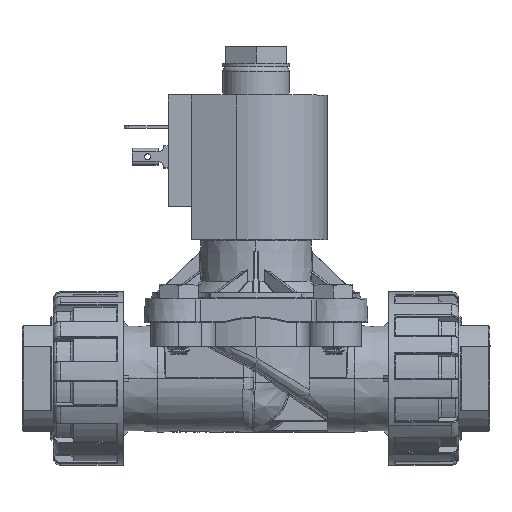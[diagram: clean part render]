
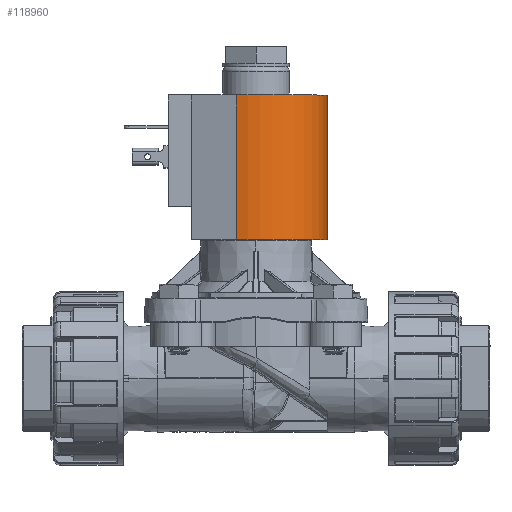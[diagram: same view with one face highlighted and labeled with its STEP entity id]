
A CAD part, top view. The second image highlights one B-rep face of the part: STEP entity #118960.
In plain terms, the highlighted cylindrical face has radius 20.32 mm (diameter 40.64 mm), a partial arc.
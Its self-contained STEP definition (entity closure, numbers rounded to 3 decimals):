
#2313 = EDGE_CURVE ( 'NONE', #107170, #109677, #42938, .T. ) ;
#3043 = LINE ( 'NONE', #41732, #96465 ) ;
#3463 = VERTEX_POINT ( 'NONE', #69249 ) ;
#5729 = CARTESIAN_POINT ( 'NONE',  ( 20.32, 73.508, 0. ) ) ;
#10477 = AXIS2_PLACEMENT_3D ( 'NONE', #86697, #13445, #31255 ) ;
#13445 = DIRECTION ( 'NONE',  ( 0., -1., 0. ) ) ;
#13735 = EDGE_CURVE ( 'NONE', #3463, #45027, #18002, .T. ) ;
#17691 = CARTESIAN_POINT ( 'NONE',  ( 0., 32.36, 0. ) ) ;
#18002 = CIRCLE ( 'NONE', #86817, 20.32 ) ;
#19695 = ORIENTED_EDGE ( 'NONE', *, *, #2313, .F. ) ;
#20852 = DIRECTION ( 'NONE',  ( 0., -1., 0. ) ) ;
#24686 = ORIENTED_EDGE ( 'NONE', *, *, #89103, .T. ) ;
#29801 = LINE ( 'NONE', #96902, #118551 ) ;
#31255 = DIRECTION ( 'NONE',  ( 1., 0., 0. ) ) ;
#31672 = ORIENTED_EDGE ( 'NONE', *, *, #58499, .F. ) ;
#31864 = FACE_OUTER_BOUND ( 'NONE', #44765, .T. ) ;
#41732 = CARTESIAN_POINT ( 'NONE',  ( -5.608, 73.508, 19.531 ) ) ;
#42938 = CIRCLE ( 'NONE', #80308, 20.32 ) ;
#44765 = EDGE_LOOP ( 'NONE', ( #31672, #19695, #24686, #55377 ) ) ;
#45027 = VERTEX_POINT ( 'NONE', #47935 ) ;
#45388 = DIRECTION ( 'NONE',  ( 0., 1., 0. ) ) ;
#47935 = CARTESIAN_POINT ( 'NONE',  ( 20.32, 32.36, 0. ) ) ;
#50822 = DIRECTION ( 'NONE',  ( 0., 1., 0. ) ) ;
#55377 = ORIENTED_EDGE ( 'NONE', *, *, #13735, .T. ) ;
#58499 = EDGE_CURVE ( 'NONE', #109677, #45027, #29801, .T. ) ;
#69249 = CARTESIAN_POINT ( 'NONE',  ( -5.608, 32.36, 19.531 ) ) ;
#72506 = CARTESIAN_POINT ( 'NONE',  ( -5.608, 73.508, 19.531 ) ) ;
#80308 = AXIS2_PLACEMENT_3D ( 'NONE', #87796, #50822, #104412 ) ;
#86463 = DIRECTION ( 'NONE',  ( 0., -1., 0. ) ) ;
#86697 = CARTESIAN_POINT ( 'NONE',  ( 0., 73.508, 0. ) ) ;
#86817 = AXIS2_PLACEMENT_3D ( 'NONE', #17691, #45388, #118677 ) ;
#87796 = CARTESIAN_POINT ( 'NONE',  ( 0., 73.508, 0. ) ) ;
#89103 = EDGE_CURVE ( 'NONE', #107170, #3463, #3043, .T. ) ;
#96465 = VECTOR ( 'NONE', #20852, 1000. ) ;
#96902 = CARTESIAN_POINT ( 'NONE',  ( 20.32, 73.508, 0. ) ) ;
#104412 = DIRECTION ( 'NONE',  ( -1., 0., 0. ) ) ;
#105149 = CYLINDRICAL_SURFACE ( 'NONE', #10477, 20.32 ) ;
#107170 = VERTEX_POINT ( 'NONE', #72506 ) ;
#109677 = VERTEX_POINT ( 'NONE', #5729 ) ;
#118551 = VECTOR ( 'NONE', #86463, 1000. ) ;
#118677 = DIRECTION ( 'NONE',  ( -1., 0., 0. ) ) ;
#118960 = ADVANCED_FACE ( 'Defeatured_0_1798', ( #31864 ), #105149, .T. ) ;
